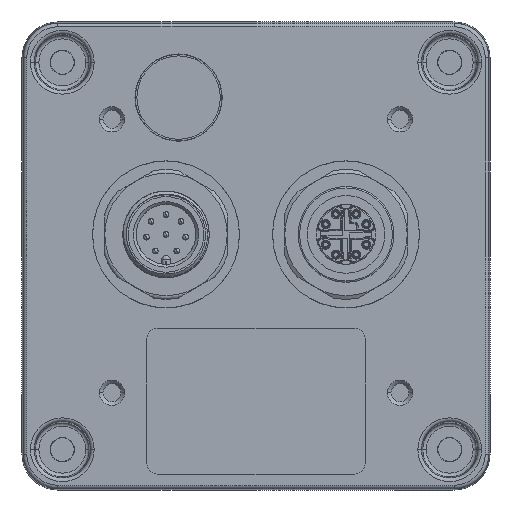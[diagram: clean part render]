
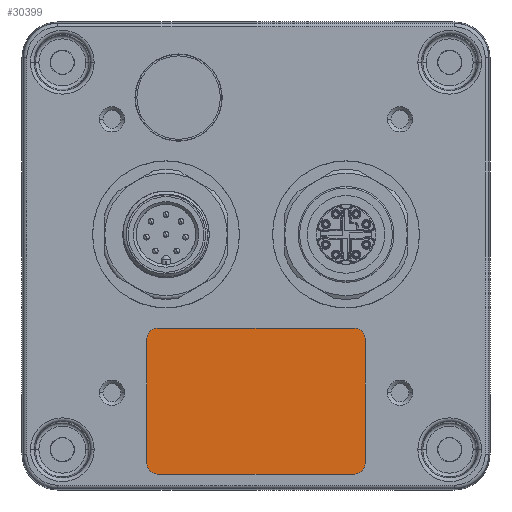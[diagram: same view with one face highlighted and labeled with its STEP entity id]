
A CAD part, front view. The second image highlights one B-rep face of the part: STEP entity #30399.
In plain terms, the highlighted planar face has unit normal (0, -1, 0).
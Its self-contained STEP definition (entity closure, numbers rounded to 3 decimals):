
#17073=CARTESIAN_POINT('',(13.65,-10.3,-11.5));
#17074=DIRECTION('',(0.,-1.,0.));
#17075=DIRECTION('',(1.,0.,0.));
#17076=AXIS2_PLACEMENT_3D('',#17073,#17074,#17075);
#17078=DIRECTION('',(0.,0.,1.));
#17079=VECTOR('',#17078,17.3);
#17080=CARTESIAN_POINT('',(15.15,-10.3,-28.8));
#17081=LINE('',#17080,#17079);
#17082=CARTESIAN_POINT('',(13.65,-10.3,-28.8));
#17083=DIRECTION('',(0.,-1.,0.));
#17084=DIRECTION('',(0.,0.,-1.));
#17085=AXIS2_PLACEMENT_3D('',#17082,#17083,#17084);
#17087=DIRECTION('',(1.,0.,0.));
#17088=VECTOR('',#17087,27.3);
#17089=CARTESIAN_POINT('',(-13.65,-10.3,-30.3));
#17090=LINE('',#17089,#17088);
#17091=CARTESIAN_POINT('',(-13.65,-10.3,-28.8));
#17092=DIRECTION('',(0.,-1.,0.));
#17093=DIRECTION('',(-1.,0.,0.));
#17094=AXIS2_PLACEMENT_3D('',#17091,#17092,#17093);
#17096=DIRECTION('',(0.,0.,-1.));
#17097=VECTOR('',#17096,17.3);
#17098=CARTESIAN_POINT('',(-15.15,-10.3,-11.5));
#17099=LINE('',#17098,#17097);
#17100=CARTESIAN_POINT('',(-13.65,-10.3,-11.5));
#17101=DIRECTION('',(0.,-1.,0.));
#17102=DIRECTION('',(0.,0.,1.));
#17103=AXIS2_PLACEMENT_3D('',#17100,#17101,#17102);
#17105=DIRECTION('',(-1.,0.,0.));
#17106=VECTOR('',#17105,27.3);
#17107=CARTESIAN_POINT('',(13.65,-10.3,-10.));
#17108=LINE('',#17107,#17106);
#21244=CARTESIAN_POINT('',(15.15,-10.3,-11.5));
#21245=CARTESIAN_POINT('',(13.65,-10.3,-10.));
#21246=VERTEX_POINT('',#21244);
#21247=VERTEX_POINT('',#21245);
#21252=CARTESIAN_POINT('',(-13.65,-10.3,-10.));
#21253=CARTESIAN_POINT('',(-15.15,-10.3,-11.5));
#21254=VERTEX_POINT('',#21252);
#21255=VERTEX_POINT('',#21253);
#21260=CARTESIAN_POINT('',(-15.15,-10.3,-28.8));
#21261=CARTESIAN_POINT('',(-13.65,-10.3,-30.3));
#21262=VERTEX_POINT('',#21260);
#21263=VERTEX_POINT('',#21261);
#21268=CARTESIAN_POINT('',(13.65,-10.3,-30.3));
#21269=CARTESIAN_POINT('',(15.15,-10.3,-28.8));
#21270=VERTEX_POINT('',#21268);
#21271=VERTEX_POINT('',#21269);
#30378=CARTESIAN_POINT('',(0.,-10.3,0.));
#30379=DIRECTION('',(0.,-1.,0.));
#30380=DIRECTION('',(-1.,0.,0.));
#30381=AXIS2_PLACEMENT_3D('',#30378,#30379,#30380);
#30382=PLANE('',#30381);
#30383=ORIENTED_EDGE('',*,*,#30369,.F.);
#30385=ORIENTED_EDGE('',*,*,#30384,.F.);
#30387=ORIENTED_EDGE('',*,*,#30386,.F.);
#30389=ORIENTED_EDGE('',*,*,#30388,.F.);
#30391=ORIENTED_EDGE('',*,*,#30390,.F.);
#30393=ORIENTED_EDGE('',*,*,#30392,.F.);
#30395=ORIENTED_EDGE('',*,*,#30394,.F.);
#30396=ORIENTED_EDGE('',*,*,#30356,.F.);
#30397=EDGE_LOOP('',(#30383,#30385,#30387,#30389,#30391,#30393,#30395,#30396));
#30398=FACE_OUTER_BOUND('',#30397,.F.);
#30399=ADVANCED_FACE('',(#30398),#30382,.T.);
#17077=CIRCLE('',#17076,1.5);
#17086=CIRCLE('',#17085,1.5);
#17095=CIRCLE('',#17094,1.5);
#17104=CIRCLE('',#17103,1.5);
#30356=EDGE_CURVE('',#21247,#21254,#17108,.T.);
#30369=EDGE_CURVE('',#21246,#21247,#17077,.T.);
#30384=EDGE_CURVE('',#21271,#21246,#17081,.T.);
#30386=EDGE_CURVE('',#21270,#21271,#17086,.T.);
#30388=EDGE_CURVE('',#21263,#21270,#17090,.T.);
#30390=EDGE_CURVE('',#21262,#21263,#17095,.T.);
#30392=EDGE_CURVE('',#21255,#21262,#17099,.T.);
#30394=EDGE_CURVE('',#21254,#21255,#17104,.T.);
